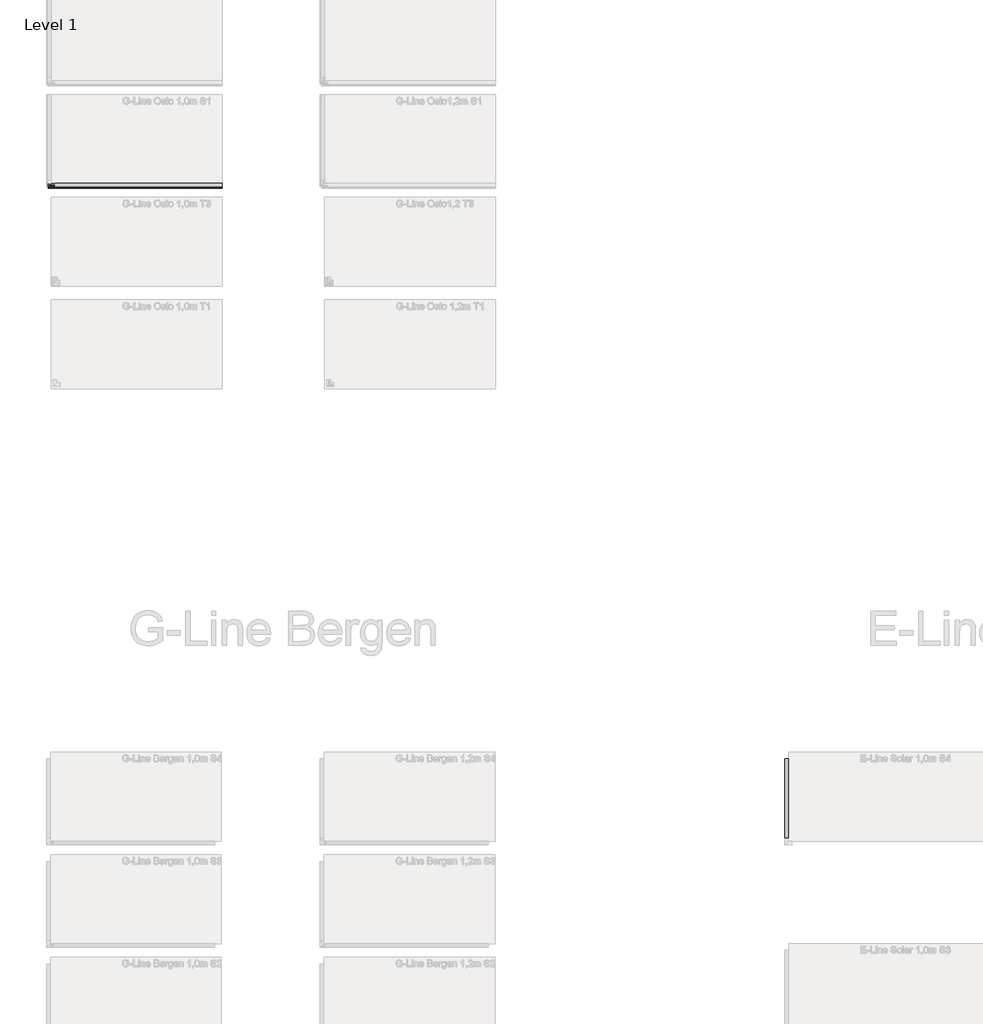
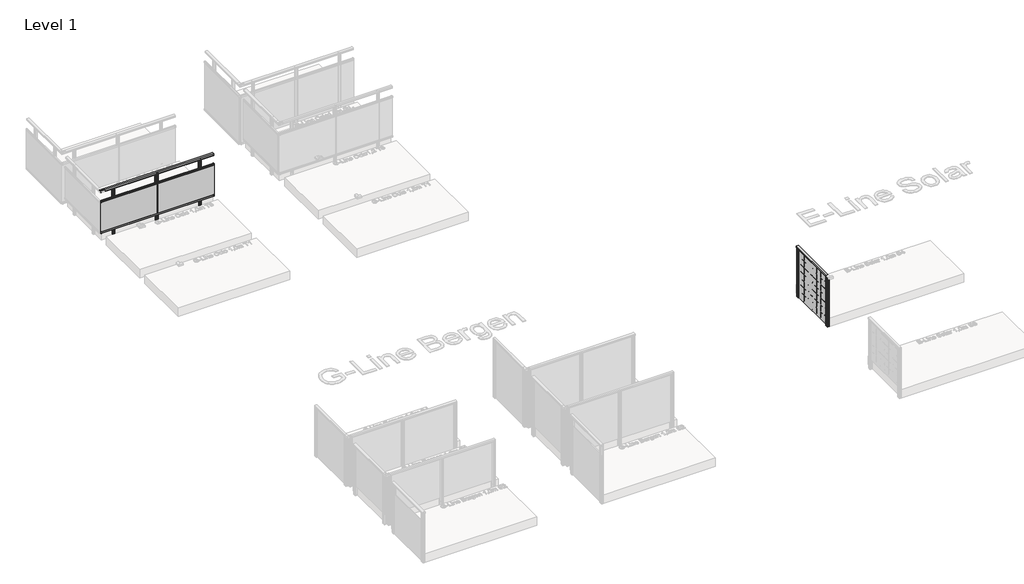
# One storey, part 30 of 66: 2 railings.
"""IFC4 building model written with IfcOpenShell, lengths in millimetres."""

from ifc_helpers import new_model, si_unit, point, frame, frame_2d, origin, origin_with_axes, place, context, project, spatial, polyline, circle_curve, trimmed, segment, composite_curve, outline, extrude, element, save

model = new_model("IFC4")

# Units and contexts
model_context = context("Model", 3, world=origin())
ifc_project = project(units=[si_unit("LENGTHUNIT", "METRE", prefix="MILLI")], contexts=[model_context])

# Site, building, storey
site = spatial("IfcSite", under=ifc_project)
building = spatial("IfcBuilding", under=site)
storey = spatial("IfcBuildingStorey", under=building, Name="Level 1", Elevation=0.0)

# Railings
placement = place(None, origin())
element("IfcRailing", 1, ObjectType="G-Line Oslo 1,0m S1", at=placement, inside=storey, context=model_context, shape_type="SweptSolid", body=[
    extrude(outline(composite_curve([segment(trimmed(circle_curve(frame_2d((12609.563828, 942.6785502)), 57.3235687), [point((12584.3088677, 994.1390059))], [point((12634.828526, 994.1342258))], False, "CARTESIAN"), True, "CONTINUOUS"), segment(polyline([(12634.828526, 994.1342258), (12634.828526, 967.0235023), (12634.2465942, 966.4415706), (12634.8686753, 965.8194895), (12634.8686753, 957.2498847), (12633.0637224, 957.2498847), (12633.0637224, 980.4998829), (12586.0686763, 980.4998829), (12586.0686763, 957.2498847), (12584.3088677, 957.2498847), (12584.3088677, 965.9694895), (12584.9236507, 966.5842725), (12584.3088677, 967.1990555), (12584.3088677, 994.1390059)]), True, "CONTINUOUS")], self_intersect=False)), frame((4464.0547322, 0.0, 0.0), z_axis=(1.0, 0.0, 0.0), x_axis=(0.0, 1.0, 0.0)), (0.0, 0.0, 1.0), 2540.0),
    extrude(outline(composite_curve([segment(polyline([(12582.0487504, 733.0), (12572.5287505, 733.0), (12565.2886441, 733.0)]), True, "CONTINUOUS"), segment(trimmed(circle_curve(frame_2d((12565.2886441, 733.5)), 0.5), [point((12565.2886441, 733.0))], [point((12564.7886441, 733.5))], False, "CARTESIAN"), True, "CONTINUOUS"), segment(polyline([(12564.7886441, 733.5), (12564.7886441, 761.4642612), (12565.2520415, 762.5008136), (12564.8288365, 763.3802866), (12564.7886441, 768.5)]), True, "CONTINUOUS"), segment(trimmed(circle_curve(frame_2d((12566.2886441, 768.5)), 1.5), [point((12564.7886441, 768.5))], [point((12566.2886441, 770.0))], False, "CARTESIAN"), True, "CONTINUOUS"), segment(polyline([(12566.2886441, 770.0), (12588.2886441, 770.0)]), True, "CONTINUOUS"), segment(trimmed(circle_curve(frame_2d((12588.2886441, 768.5)), 1.5), [point((12588.2886441, 770.0))], [point((12589.7886441, 768.5))], False, "CARTESIAN"), True, "CONTINUOUS"), segment(polyline([(12589.7886441, 768.5), (12589.7886441, 763.5302866), (12589.3252466, 762.5701988), (12589.7484517, 761.6142612), (12589.7484517, 733.6964102)]), True, "CONTINUOUS"), segment(trimmed(circle_curve(frame_2d((12589.2886441, 733.5)), 0.5), [point((12589.7484517, 733.6964102))], [point((12589.2886441, 733.0))], False, "CARTESIAN"), True, "CONTINUOUS"), segment(polyline([(12589.2886441, 733.0), (12582.0487504, 733.0)]), True, "CONTINUOUS")], self_intersect=False)), frame((4464.0547322, 0.0, 0.0), z_axis=(1.0, 0.0, 0.0), x_axis=(0.0, 1.0, 0.0)), (0.0, 0.0, 1.0), 2540.0),
    extrude(outline(polyline([(7004.0547322, 12581.6686441), (7004.0547322, 12572.9086441), (4464.0547322, 12572.9086441), (4464.0547322, 12581.6686441), (7004.0547322, 12581.6686441)])), frame((0.0, 0.0, 28.0), z_axis=(0.0, 0.0, 1.0), x_axis=(1.0, 0.0, 0.0)), (0.0, 0.0, 1.0), 722.0),
    extrude(outline(composite_curve([segment(polyline([(12572.5285377, 37.0), (12582.0485377, 37.0), (12589.2886441, 37.0)]), True, "CONTINUOUS"), segment(trimmed(circle_curve(frame_2d((12589.2886441, 36.5)), 0.5), [point((12589.2886441, 37.0))], [point((12589.7886441, 36.5))], False, "CARTESIAN"), True, "CONTINUOUS"), segment(polyline([(12589.7886441, 36.5), (12589.7886441, 8.5357388), (12589.3252466, 7.4991864), (12589.7484517, 6.6197134), (12589.7886441, 1.5)]), True, "CONTINUOUS"), segment(trimmed(circle_curve(frame_2d((12588.2886441, 1.5)), 1.5), [point((12589.7886441, 1.5))], [point((12588.2886441, 0.0))], False, "CARTESIAN"), True, "CONTINUOUS"), segment(polyline([(12588.2886441, 0.0), (12566.2886441, 0.0)]), True, "CONTINUOUS"), segment(trimmed(circle_curve(frame_2d((12566.2886441, 1.5)), 1.5), [point((12566.2886441, 0.0))], [point((12564.7886441, 1.5))], False, "CARTESIAN"), True, "CONTINUOUS"), segment(polyline([(12564.7886441, 1.5), (12564.7886441, 6.4697134), (12565.2520415, 7.4298012), (12564.8288365, 8.3857388), (12564.8288365, 36.3035898)]), True, "CONTINUOUS"), segment(trimmed(circle_curve(frame_2d((12565.2886441, 36.5)), 0.5), [point((12564.8288365, 36.3035898))], [point((12565.2886441, 37.0))], False, "CARTESIAN"), True, "CONTINUOUS"), segment(polyline([(12565.2886441, 37.0), (12572.5285377, 37.0)]), True, "CONTINUOUS")], self_intersect=False)), frame((4464.0547322, 0.0, 0.0), z_axis=(1.0, 0.0, 0.0), x_axis=(0.0, 1.0, 0.0)), (0.0, 0.0, 1.0), 2540.0),
    extrude(outline(polyline([(5738.0547322, 12570.2118492), (5730.0547322, 12570.2118492), (5730.0547322, 12578.2118492), (5738.0547322, 12578.2118492), (5738.0547322, 12570.2118492)])), origin_with_axes(), (0.0, 0.0, 1.0), 751.0),
    extrude(outline(composite_curve([segment(trimmed(circle_curve(frame_2d((0.0, -12.0)), 12.0), [point((0.0, -23.9999999))], [point((0.0, 0.0))], False, "CARTESIAN"), True, "CONTINUOUS"), segment(trimmed(circle_curve(frame_2d((0.0, -12.0)), 12.0), [point((0.0, 0.0))], [point((0.0, -23.9999999))], False, "CARTESIAN"), True, "CONTINUOUS")], self_intersect=False)), frame((5746.0650091, 12584.7534315, -175.0), z_axis=(-0.0004029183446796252, 0.9999999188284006, 0.0), x_axis=(0.0, 0.0, 1.0)), (0.0, 0.0, 1.0), 3.0757477),
    extrude(outline(composite_curve([segment(trimmed(circle_curve(frame_2d((0.0, -12.0)), 12.0), [point((0.0, -23.9999999))], [point((0.0, 0.0))], False, "CARTESIAN"), True, "CONTINUOUS"), segment(trimmed(circle_curve(frame_2d((0.0, -12.0)), 12.0), [point((0.0, 0.0))], [point((0.0, -23.9999999))], False, "CARTESIAN"), True, "CONTINUOUS")], self_intersect=False)), frame((5746.0650091, 12584.7534315, -50.0), z_axis=(-0.0004029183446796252, 0.9999999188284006, 0.0), x_axis=(0.0, 0.0, 1.0)), (0.0, 0.0, 1.0), 3.0757477),
    extrude(outline(composite_curve([segment(trimmed(circle_curve(frame_2d((5713.5547322, 12589.7886441)), 2.5), [point((5713.5547322, 12587.2886441))], [point((5711.0547322, 12589.7886441))], False, "CARTESIAN"), True, "CONTINUOUS"), segment(polyline([(5711.0547322, 12589.7886441), (5711.0547322, 12630.7886441)]), True, "CONTINUOUS"), segment(trimmed(circle_curve(frame_2d((5713.5547322, 12630.7886441)), 2.5), [point((5711.0547322, 12630.7886441))], [point((5713.5547322, 12633.2886441))], False, "CARTESIAN"), True, "CONTINUOUS"), segment(polyline([(5713.5547322, 12633.2886441), (5733.1315272, 12633.2886441), (5734.0547322, 12632.365439), (5734.9377449, 12633.2484517), (5754.5547322, 12633.2886441)]), True, "CONTINUOUS"), segment(trimmed(circle_curve(frame_2d((5754.5547322, 12630.7886441)), 2.5), [point((5754.5547322, 12633.2886441))], [point((5757.0547322, 12630.7886441))], False, "CARTESIAN"), True, "CONTINUOUS"), segment(polyline([(5757.0547322, 12630.7886441), (5757.0547322, 12589.7886441)]), True, "CONTINUOUS"), segment(trimmed(circle_curve(frame_2d((5754.5547322, 12589.7886441)), 2.5), [point((5757.0547322, 12589.7886441))], [point((5754.5547322, 12587.2886441))], False, "CARTESIAN"), True, "CONTINUOUS"), segment(polyline([(5754.5547322, 12587.2886441), (5734.9377449, 12587.3288365), (5734.0547322, 12588.2118492), (5733.1717195, 12587.3288365), (5713.5547322, 12587.2886441)]), True, "CONTINUOUS")], self_intersect=False), holes=[composite_curve([segment(trimmed(circle_curve(frame_2d((5752.0547322, 12628.2886441)), 1.0), [point((5753.0547322, 12628.2886441))], [point((5752.0547322, 12629.2886441))], True, "CARTESIAN"), True, "CONTINUOUS"), segment(polyline([(5752.0547322, 12629.2886441), (5716.0547322, 12629.2886441)]), True, "CONTINUOUS"), segment(trimmed(circle_curve(frame_2d((5716.0547322, 12628.2886441)), 1.0), [point((5716.0547322, 12629.2886441))], [point((5715.0547322, 12628.2886441))], True, "CARTESIAN"), True, "CONTINUOUS"), segment(polyline([(5715.0547322, 12628.2886441), (5715.0547322, 12592.2886441)]), True, "CONTINUOUS"), segment(trimmed(circle_curve(frame_2d((5716.0547322, 12592.2886441)), 1.0), [point((5715.0547322, 12592.2886441))], [point((5716.0547322, 12591.2886441))], True, "CARTESIAN"), True, "CONTINUOUS"), segment(polyline([(5716.0547322, 12591.2886441), (5752.0547322, 12591.2886441)]), True, "CONTINUOUS"), segment(trimmed(circle_curve(frame_2d((5752.0547322, 12592.2886441)), 1.0), [point((5752.0547322, 12591.2886441))], [point((5753.0547322, 12592.2886441))], True, "CARTESIAN"), True, "CONTINUOUS"), segment(polyline([(5753.0547322, 12592.2886441), (5753.0547322, 12628.2886441)]), True, "CONTINUOUS")], self_intersect=False)]), frame((0.0, 0.0, -200.0), z_axis=(0.0, 0.0, 1.0), x_axis=(1.0, 0.0, 0.0)), (0.0, 0.0, 1.0), 1181.0),
    extrude(outline(composite_curve([segment(polyline([(4763.2519452, 12630.2886441), (4764.0547322, 12629.4858571), (4764.8225694, 12630.2536942), (4781.8808193, 12630.2886441)]), True, "CONTINUOUS"), segment(trimmed(circle_curve(frame_2d((4781.8808192, 12628.114731)), 2.173913), [point((4781.8808193, 12630.2886441))], [point((4784.0547322, 12628.114731))], False, "CARTESIAN"), True, "CONTINUOUS"), segment(polyline([(4784.0547322, 12628.114731), (4784.0547322, 12592.4625571)]), True, "CONTINUOUS"), segment(trimmed(circle_curve(frame_2d((4781.8808192, 12592.4625571)), 2.173913), [point((4784.0547322, 12592.4625571))], [point((4781.8808192, 12590.2886441))], False, "CARTESIAN"), True, "CONTINUOUS"), segment(polyline([(4781.8808192, 12590.2886441), (4764.8225694, 12590.323594), (4764.0547322, 12591.0914311), (4763.2868951, 12590.323594), (4746.2286453, 12590.2886441)]), True, "CONTINUOUS"), segment(trimmed(circle_curve(frame_2d((4746.2286453, 12592.4625571)), 2.173913), [point((4746.2286453, 12590.2886441))], [point((4744.0547322, 12592.4625571))], False, "CARTESIAN"), True, "CONTINUOUS"), segment(polyline([(4744.0547322, 12592.4625571), (4744.0547322, 12628.114731)]), True, "CONTINUOUS"), segment(trimmed(circle_curve(frame_2d((4746.2286453, 12628.114731)), 2.173913), [point((4744.0547322, 12628.114731))], [point((4746.2286453, 12630.2886441))], False, "CARTESIAN"), True, "CONTINUOUS"), segment(polyline([(4746.2286453, 12630.2886441), (4763.2519452, 12630.2886441)]), True, "CONTINUOUS")], self_intersect=False)), frame((0.0, 0.0, -200.0), z_axis=(0.0, 0.0, 1.0), x_axis=(1.0, 0.0, 0.0)), (0.0, 0.0, 1.0), 10.0),
    extrude(outline(composite_curve([segment(polyline([(4784.0547322, 12628.114731), (4784.0547322, 12592.4625571)]), True, "CONTINUOUS"), segment(trimmed(circle_curve(frame_2d((4781.8808192, 12592.4625571)), 2.173913), [point((4784.0547322, 12592.4625571))], [point((4781.8808192, 12590.2886441))], False, "CARTESIAN"), True, "CONTINUOUS"), segment(polyline([(4781.8808192, 12590.2886441), (4764.8225694, 12590.323594), (4764.0547322, 12591.0914311), (4763.2868951, 12590.323594), (4746.2286453, 12590.2886441)]), True, "CONTINUOUS"), segment(trimmed(circle_curve(frame_2d((4746.2286453, 12592.4625571)), 2.173913), [point((4746.2286453, 12590.2886441))], [point((4744.0547322, 12592.4625571))], False, "CARTESIAN"), True, "CONTINUOUS"), segment(polyline([(4744.0547322, 12592.4625571), (4744.0547322, 12628.114731)]), True, "CONTINUOUS"), segment(trimmed(circle_curve(frame_2d((4746.2286453, 12628.114731)), 2.173913), [point((4744.0547322, 12628.114731))], [point((4746.2286453, 12630.2886441))], False, "CARTESIAN"), True, "CONTINUOUS"), segment(polyline([(4746.2286453, 12630.2886441), (4763.1564603, 12630.2886441), (4763.9242975, 12629.8856898), (4764.8225694, 12630.2536942), (4781.8808192, 12630.2886441)]), True, "CONTINUOUS"), segment(trimmed(circle_curve(frame_2d((4781.8808192, 12628.114731)), 2.173913), [point((4781.8808192, 12630.2886441))], [point((4784.0547322, 12628.114731))], False, "CARTESIAN"), True, "CONTINUOUS")], self_intersect=False), holes=[composite_curve([segment(trimmed(circle_curve(frame_2d((4779.7069062, 12625.940818)), 0.8695652), [point((4780.5764714, 12625.940818))], [point((4779.7069062, 12626.8103832))], True, "CARTESIAN"), True, "CONTINUOUS"), segment(polyline([(4779.7069062, 12626.8103832), (4748.4025583, 12626.8103832)]), True, "CONTINUOUS"), segment(trimmed(circle_curve(frame_2d((4748.4025583, 12625.940818)), 0.8695652), [point((4748.4025583, 12626.8103832))], [point((4747.5329931, 12625.940818))], True, "CARTESIAN"), True, "CONTINUOUS"), segment(polyline([(4747.5329931, 12625.940818), (4747.5329931, 12594.6364702)]), True, "CONTINUOUS"), segment(trimmed(circle_curve(frame_2d((4748.4025583, 12594.6364702)), 0.8695652), [point((4747.5329931, 12594.6364702))], [point((4748.4025583, 12593.766905))], True, "CARTESIAN"), True, "CONTINUOUS"), segment(polyline([(4748.4025583, 12593.766905), (4779.7069062, 12593.766905)]), True, "CONTINUOUS"), segment(trimmed(circle_curve(frame_2d((4779.7069062, 12594.6364702)), 0.8695652), [point((4779.7069062, 12593.766905))], [point((4780.5764714, 12594.6364702))], True, "CARTESIAN"), True, "CONTINUOUS"), segment(polyline([(4780.5764714, 12594.6364702), (4780.5764714, 12625.940818)]), True, "CONTINUOUS")], self_intersect=False)]), frame((0.0, 0.0, -190.0), z_axis=(0.0, 0.0, 1.0), x_axis=(1.0, 0.0, 0.0)), (0.0, 0.0, 1.0), 1178.0),
    extrude(outline(composite_curve([segment(trimmed(circle_curve(frame_2d((0.0, -12.0)), 12.0), [point((0.0, -23.9999999))], [point((0.0, 0.0))], False, "CARTESIAN"), True, "CONTINUOUS"), segment(trimmed(circle_curve(frame_2d((0.0, -12.0)), 12.0), [point((0.0, 0.0))], [point((0.0, -23.9999999))], False, "CARTESIAN"), True, "CONTINUOUS")], self_intersect=False)), frame((4776.0650091, 12587.2248149, -151.0), z_axis=(-0.0004029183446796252, 0.9999999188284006, 0.0), x_axis=(0.0, 0.0, 1.0)), (0.0, 0.0, 1.0), 3.0757477),
    extrude(outline(composite_curve([segment(trimmed(circle_curve(frame_2d((0.0, -12.0)), 12.0), [point((0.0, -23.9999999))], [point((0.0, 0.0))], False, "CARTESIAN"), True, "CONTINUOUS"), segment(trimmed(circle_curve(frame_2d((0.0, -12.0)), 12.0), [point((0.0, 0.0))], [point((0.0, -23.9999999))], False, "CARTESIAN"), True, "CONTINUOUS")], self_intersect=False)), frame((4776.0650091, 12587.2248149, -50.0), z_axis=(-0.0004029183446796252, 0.9999999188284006, 0.0), x_axis=(0.0, 0.0, 1.0)), (0.0, 0.0, 1.0), 3.0757477),
    extrude(outline(composite_curve([segment(polyline([(6703.2519452, 12630.2886441), (6704.0547322, 12629.4858571), (6704.8225694, 12630.2536942), (6721.8808193, 12630.2886441)]), True, "CONTINUOUS"), segment(trimmed(circle_curve(frame_2d((6721.8808192, 12628.114731)), 2.173913), [point((6721.8808193, 12630.2886441))], [point((6724.0547322, 12628.114731))], False, "CARTESIAN"), True, "CONTINUOUS"), segment(polyline([(6724.0547322, 12628.114731), (6724.0547322, 12592.4625571)]), True, "CONTINUOUS"), segment(trimmed(circle_curve(frame_2d((6721.8808192, 12592.4625571)), 2.173913), [point((6724.0547322, 12592.4625571))], [point((6721.8808192, 12590.2886441))], False, "CARTESIAN"), True, "CONTINUOUS"), segment(polyline([(6721.8808192, 12590.2886441), (6704.8225694, 12590.323594), (6704.0547322, 12591.0914311), (6703.2868951, 12590.323594), (6686.2286453, 12590.2886441)]), True, "CONTINUOUS"), segment(trimmed(circle_curve(frame_2d((6686.2286453, 12592.4625571)), 2.173913), [point((6686.2286453, 12590.2886441))], [point((6684.0547322, 12592.4625571))], False, "CARTESIAN"), True, "CONTINUOUS"), segment(polyline([(6684.0547322, 12592.4625571), (6684.0547322, 12628.114731)]), True, "CONTINUOUS"), segment(trimmed(circle_curve(frame_2d((6686.2286453, 12628.114731)), 2.173913), [point((6684.0547322, 12628.114731))], [point((6686.2286453, 12630.2886441))], False, "CARTESIAN"), True, "CONTINUOUS"), segment(polyline([(6686.2286453, 12630.2886441), (6703.2519452, 12630.2886441)]), True, "CONTINUOUS")], self_intersect=False)), frame((0.0, 0.0, -200.0), z_axis=(0.0, 0.0, 1.0), x_axis=(1.0, 0.0, 0.0)), (0.0, 0.0, 1.0), 10.0),
    extrude(outline(composite_curve([segment(polyline([(6724.0547322, 12628.114731), (6724.0547322, 12592.4625571)]), True, "CONTINUOUS"), segment(trimmed(circle_curve(frame_2d((6721.8808192, 12592.4625571)), 2.173913), [point((6724.0547322, 12592.4625571))], [point((6721.8808192, 12590.2886441))], False, "CARTESIAN"), True, "CONTINUOUS"), segment(polyline([(6721.8808192, 12590.2886441), (6704.8225694, 12590.323594), (6704.0547322, 12591.0914311), (6703.2868951, 12590.323594), (6686.2286453, 12590.2886441)]), True, "CONTINUOUS"), segment(trimmed(circle_curve(frame_2d((6686.2286453, 12592.4625571)), 2.173913), [point((6686.2286453, 12590.2886441))], [point((6684.0547322, 12592.4625571))], False, "CARTESIAN"), True, "CONTINUOUS"), segment(polyline([(6684.0547322, 12592.4625571), (6684.0547322, 12628.114731)]), True, "CONTINUOUS"), segment(trimmed(circle_curve(frame_2d((6686.2286453, 12628.114731)), 2.173913), [point((6684.0547322, 12628.114731))], [point((6686.2286453, 12630.2886441))], False, "CARTESIAN"), True, "CONTINUOUS"), segment(polyline([(6686.2286453, 12630.2886441), (6703.1564603, 12630.2886441), (6703.9242975, 12629.8856898), (6704.8225694, 12630.2536942), (6721.8808192, 12630.2886441)]), True, "CONTINUOUS"), segment(trimmed(circle_curve(frame_2d((6721.8808192, 12628.114731)), 2.173913), [point((6721.8808192, 12630.2886441))], [point((6724.0547322, 12628.114731))], False, "CARTESIAN"), True, "CONTINUOUS")], self_intersect=False), holes=[composite_curve([segment(trimmed(circle_curve(frame_2d((6719.7069062, 12625.940818)), 0.8695652), [point((6720.5764714, 12625.940818))], [point((6719.7069062, 12626.8103832))], True, "CARTESIAN"), True, "CONTINUOUS"), segment(polyline([(6719.7069062, 12626.8103832), (6688.4025583, 12626.8103832)]), True, "CONTINUOUS"), segment(trimmed(circle_curve(frame_2d((6688.4025583, 12625.940818)), 0.8695652), [point((6688.4025583, 12626.8103832))], [point((6687.5329931, 12625.940818))], True, "CARTESIAN"), True, "CONTINUOUS"), segment(polyline([(6687.5329931, 12625.940818), (6687.5329931, 12594.6364702)]), True, "CONTINUOUS"), segment(trimmed(circle_curve(frame_2d((6688.4025583, 12594.6364702)), 0.8695652), [point((6687.5329931, 12594.6364702))], [point((6688.4025583, 12593.766905))], True, "CARTESIAN"), True, "CONTINUOUS"), segment(polyline([(6688.4025583, 12593.766905), (6719.7069062, 12593.766905)]), True, "CONTINUOUS"), segment(trimmed(circle_curve(frame_2d((6719.7069062, 12594.6364702)), 0.8695652), [point((6719.7069062, 12593.766905))], [point((6720.5764714, 12594.6364702))], True, "CARTESIAN"), True, "CONTINUOUS"), segment(polyline([(6720.5764714, 12594.6364702), (6720.5764714, 12625.940818)]), True, "CONTINUOUS")], self_intersect=False)]), frame((0.0, 0.0, -190.0), z_axis=(0.0, 0.0, 1.0), x_axis=(1.0, 0.0, 0.0)), (0.0, 0.0, 1.0), 1178.0),
    extrude(outline(composite_curve([segment(trimmed(circle_curve(frame_2d((0.0, -12.0)), 12.0), [point((0.0, -23.9999999))], [point((0.0, 0.0))], False, "CARTESIAN"), True, "CONTINUOUS"), segment(trimmed(circle_curve(frame_2d((0.0, -12.0)), 12.0), [point((0.0, 0.0))], [point((0.0, -23.9999999))], False, "CARTESIAN"), True, "CONTINUOUS")], self_intersect=False)), frame((6716.0650091, 12587.2248149, -151.0), z_axis=(-0.0004029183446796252, 0.9999999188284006, 0.0), x_axis=(0.0, 0.0, 1.0)), (0.0, 0.0, 1.0), 3.0757477),
    extrude(outline(composite_curve([segment(trimmed(circle_curve(frame_2d((0.0, -12.0)), 12.0), [point((0.0, -23.9999999))], [point((0.0, 0.0))], False, "CARTESIAN"), True, "CONTINUOUS"), segment(trimmed(circle_curve(frame_2d((0.0, -12.0)), 12.0), [point((0.0, 0.0))], [point((0.0, -23.9999999))], False, "CARTESIAN"), True, "CONTINUOUS")], self_intersect=False)), frame((6716.0650091, 12587.2248149, -50.0), z_axis=(-0.0004029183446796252, 0.9999999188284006, 0.0), x_axis=(0.0, 0.0, 1.0)), (0.0, 0.0, 1.0), 3.0757477),
])
element("IfcRailing", 2, ObjectType="E-Line Solar 1,0m S4 6 columns of solar elements", at=placement, inside=storey, context=model_context, shape_type="SweptSolid", body=[
    extrude(outline(composite_curve([segment(trimmed(circle_curve(frame_2d((942.6785502, 15265.8109342)), 57.3235687), [point((994.1390059, 15291.0658945))], [point((994.1342258, 15240.5462362))], False, "CARTESIAN"), True, "CONTINUOUS"), segment(polyline([(994.1342258, 15240.5462362), (967.0235023, 15240.5462362), (966.4415706, 15241.128168), (965.8194895, 15240.5060869), (957.2498847, 15240.5060869), (957.2498847, 15242.3110398), (980.4998829, 15242.3110398), (980.4998829, 15289.306086), (957.2498847, 15289.306086), (957.2498847, 15291.0658945), (965.9694895, 15291.0658945), (966.5842725, 15290.4511115), (967.1990555, 15291.0658945), (994.1390059, 15291.0658945)]), True, "CONTINUOUS")], self_intersect=False)), frame((0.0, 3023.8815979, 0.0), z_axis=(0.0, 1.0, 0.0), x_axis=(0.0, 0.0, 1.0)), (0.0, 0.0, 1.0), 1195.0),
    extrude(outline(polyline([(15265.6306934, 4218.8815979), (15267.4943763, 4218.8815979), (15267.4943763, 3023.8815979), (15265.6306934, 3023.8815979), (15265.6306934, 4218.8815979)])), frame((0.0, 0.0, -200.0), z_axis=(0.0, 0.0, 1.0), x_axis=(1.0, 0.0, 0.0)), (0.0, 0.0, 1.0), 1.1703418),
    extrude(outline(polyline([(15262.1463105, 4218.8815979), (15270.9063105, 4218.8815979), (15270.9063105, 3023.8815979), (15262.1463105, 3023.8815979), (15262.1463105, 4218.8815979)])), frame((0.0, 0.0, -200.0), z_axis=(0.0, 0.0, 1.0), x_axis=(1.0, 0.0, 0.0)), (0.0, 0.0, 1.0), 1180.0),
    extrude(outline(polyline([(0.0, 0.0), (-16.036927, 16.036927), (-16.036927, 139.963073), (0.0, 156.0), (123.9261459, 156.0), (139.963073, 139.963073), (139.963073, 16.036927), (123.9261459, 0.0), (0.0, 0.0)])), frame((15262.0263105, 3945.8815979, 935.4156895), z_axis=(1.0, -5.811291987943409e-12, 0.0), x_axis=(0.0, 0.0, -1.0)), (0.0, 0.0, 1.0), 1.0),
    extrude(outline(polyline([(0.0, 0.0), (-16.036927, 16.036927), (-16.036927, 139.963073), (0.0, 156.0), (123.9261459, 156.0), (139.963073, 139.963073), (139.963073, 16.036927), (123.9261459, 0.0), (0.0, 0.0)])), frame((15262.0263105, 3784.8815979, 935.4156895), z_axis=(1.0, -5.811291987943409e-12, 0.0), x_axis=(0.0, 0.0, -1.0)), (0.0, 0.0, 1.0), 1.0),
    extrude(outline(polyline([(0.0, 0.0), (-16.036927, 16.036927), (-16.036927, 139.963073), (0.0, 156.0), (123.9261459, 156.0), (139.963073, 139.963073), (139.963073, 16.036927), (123.9261459, 0.0), (0.0, 0.0)])), frame((15262.0263105, 3623.8815979, 935.4156895), z_axis=(1.0, -5.811291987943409e-12, 0.0), x_axis=(0.0, 0.0, -1.0)), (0.0, 0.0, 1.0), 1.0),
    extrude(outline(polyline([(0.0, 0.0), (-16.036927, 16.036927), (-16.036927, 139.963073), (0.0, 156.0), (123.9261459, 156.0), (139.963073, 139.963073), (139.963073, 16.036927), (123.9261459, 0.0), (0.0, 0.0)])), frame((15262.0263105, 3140.8815979, 935.4156895), z_axis=(1.0, -5.811291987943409e-12, 0.0), x_axis=(0.0, 0.0, -1.0)), (0.0, 0.0, 1.0), 1.0),
    extrude(outline(polyline([(0.0, 0.0), (-16.036927, 16.036927), (-16.036927, 139.963073), (0.0, 156.0), (123.9261459, 156.0), (139.963073, 139.963073), (139.963073, 16.036927), (123.9261459, 0.0), (0.0, 0.0)])), frame((15262.0263105, 3301.8815979, 935.4156895), z_axis=(1.0, -5.811291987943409e-12, 0.0), x_axis=(0.0, 0.0, -1.0)), (0.0, 0.0, 1.0), 1.0),
    extrude(outline(polyline([(0.0, 0.0), (-16.036927, 16.036927), (-16.036927, 139.963073), (0.0, 156.0), (123.9261459, 156.0), (139.963073, 139.963073), (139.963073, 16.036927), (123.9261459, 0.0), (0.0, 0.0)])), frame((15262.0263105, 3462.8815979, 935.4156895), z_axis=(1.0, -5.811291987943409e-12, 0.0), x_axis=(0.0, 0.0, -1.0)), (0.0, 0.0, 1.0), 1.0),
    extrude(outline(polyline([(0.0, 0.0), (-16.036927, 16.036927), (-16.036927, 139.963073), (0.0, 156.0), (123.9261459, 156.0), (139.963073, 139.963073), (139.963073, 16.036927), (123.9261459, 0.0), (0.0, 0.0)])), frame((15262.0263105, 3945.8815979, 774.4156895), z_axis=(1.0, -5.811291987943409e-12, 0.0), x_axis=(0.0, 0.0, -1.0)), (0.0, 0.0, 1.0), 1.0),
    extrude(outline(polyline([(0.0, 0.0), (-16.036927, 16.036927), (-16.036927, 139.963073), (0.0, 156.0), (123.9261459, 156.0), (139.963073, 139.963073), (139.963073, 16.036927), (123.9261459, 0.0), (0.0, 0.0)])), frame((15262.0263105, 3784.8815979, 774.4156895), z_axis=(1.0, -5.811291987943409e-12, 0.0), x_axis=(0.0, 0.0, -1.0)), (0.0, 0.0, 1.0), 1.0),
    extrude(outline(polyline([(0.0, 0.0), (-16.036927, 16.036927), (-16.036927, 139.963073), (0.0, 156.0), (123.9261459, 156.0), (139.963073, 139.963073), (139.963073, 16.036927), (123.9261459, 0.0), (0.0, 0.0)])), frame((15262.0263105, 3623.8815979, 774.4156895), z_axis=(1.0, -5.811291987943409e-12, 0.0), x_axis=(0.0, 0.0, -1.0)), (0.0, 0.0, 1.0), 1.0),
    extrude(outline(polyline([(0.0, 0.0), (-16.036927, 16.036927), (-16.036927, 139.963073), (0.0, 156.0), (123.9261459, 156.0), (139.963073, 139.963073), (139.963073, 16.036927), (123.9261459, 0.0), (0.0, 0.0)])), frame((15262.0263105, 3140.8815979, 774.4156895), z_axis=(1.0, -5.811291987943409e-12, 0.0), x_axis=(0.0, 0.0, -1.0)), (0.0, 0.0, 1.0), 1.0),
    extrude(outline(polyline([(0.0, 0.0), (-16.036927, 16.036927), (-16.036927, 139.963073), (0.0, 156.0), (123.9261459, 156.0), (139.963073, 139.963073), (139.963073, 16.036927), (123.9261459, 0.0), (0.0, 0.0)])), frame((15262.0263105, 3301.8815979, 774.4156895), z_axis=(1.0, -5.811291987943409e-12, 0.0), x_axis=(0.0, 0.0, -1.0)), (0.0, 0.0, 1.0), 1.0),
    extrude(outline(polyline([(0.0, 0.0), (-16.036927, 16.036927), (-16.036927, 139.963073), (0.0, 156.0), (123.9261459, 156.0), (139.963073, 139.963073), (139.963073, 16.036927), (123.9261459, 0.0), (0.0, 0.0)])), frame((15262.0263105, 3462.8815979, 774.4156895), z_axis=(1.0, -5.811291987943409e-12, 0.0), x_axis=(0.0, 0.0, -1.0)), (0.0, 0.0, 1.0), 1.0),
    extrude(outline(polyline([(0.0, 0.0), (-16.036927, 16.036927), (-16.036927, 139.963073), (0.0, 156.0), (123.9261459, 156.0), (139.963073, 139.963073), (139.963073, 16.036927), (123.9261459, 0.0), (0.0, 0.0)])), frame((15262.0263105, 3945.8815979, 613.4156895), z_axis=(1.0, -5.811291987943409e-12, 0.0), x_axis=(0.0, 0.0, -1.0)), (0.0, 0.0, 1.0), 1.0),
    extrude(outline(polyline([(0.0, 0.0), (-16.036927, 16.036927), (-16.036927, 139.963073), (0.0, 156.0), (123.9261459, 156.0), (139.963073, 139.963073), (139.963073, 16.036927), (123.9261459, 0.0), (0.0, 0.0)])), frame((15262.0263105, 3945.8815979, 452.4156895), z_axis=(1.0, -5.811291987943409e-12, 0.0), x_axis=(0.0, 0.0, -1.0)), (0.0, 0.0, 1.0), 1.0),
    extrude(outline(polyline([(0.0, 0.0), (-16.036927, 16.036927), (-16.036927, 139.963073), (0.0, 156.0), (123.9261459, 156.0), (139.963073, 139.963073), (139.963073, 16.036927), (123.9261459, 0.0), (0.0, 0.0)])), frame((15262.0263105, 3945.8815979, 291.4156895), z_axis=(1.0, -5.811291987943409e-12, 0.0), x_axis=(0.0, 0.0, -1.0)), (0.0, 0.0, 1.0), 1.0),
    extrude(outline(polyline([(0.0, 0.0), (-16.036927, 16.036927), (-16.036927, 139.963073), (0.0, 156.0), (123.9261459, 156.0), (139.963073, 139.963073), (139.963073, 16.036927), (123.9261459, 0.0), (0.0, 0.0)])), frame((15262.0263105, 3945.8815979, 130.4156895), z_axis=(1.0, -5.811291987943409e-12, 0.0), x_axis=(0.0, 0.0, -1.0)), (0.0, 0.0, 1.0), 1.0),
    extrude(outline(polyline([(0.0, 0.0), (-16.036927, 16.036927), (-16.036927, 139.963073), (0.0, 156.0), (123.9261459, 156.0), (139.963073, 139.963073), (139.963073, 16.036927), (123.9261459, 0.0), (0.0, 0.0)])), frame((15262.0263105, 3945.8815979, -30.5843105), z_axis=(1.0, -5.811291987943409e-12, 0.0), x_axis=(0.0, 0.0, -1.0)), (0.0, 0.0, 1.0), 1.0),
    extrude(outline(polyline([(0.0, 0.0), (-16.036927, 16.036927), (-16.036927, 139.963073), (0.0, 156.0), (123.9261459, 156.0), (139.963073, 139.963073), (139.963073, 16.036927), (123.9261459, 0.0), (0.0, 0.0)])), frame((15262.0263105, 3784.8815979, 613.4156895), z_axis=(1.0, -5.811291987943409e-12, 0.0), x_axis=(0.0, 0.0, -1.0)), (0.0, 0.0, 1.0), 1.0),
    extrude(outline(polyline([(0.0, 0.0), (-16.036927, 16.036927), (-16.036927, 139.963073), (0.0, 156.0), (123.9261459, 156.0), (139.963073, 139.963073), (139.963073, 16.036927), (123.9261459, 0.0), (0.0, 0.0)])), frame((15262.0263105, 3784.8815979, 452.4156895), z_axis=(1.0, -5.811291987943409e-12, 0.0), x_axis=(0.0, 0.0, -1.0)), (0.0, 0.0, 1.0), 1.0),
    extrude(outline(polyline([(0.0, 0.0), (-16.036927, 16.036927), (-16.036927, 139.963073), (0.0, 156.0), (123.9261459, 156.0), (139.963073, 139.963073), (139.963073, 16.036927), (123.9261459, 0.0), (0.0, 0.0)])), frame((15262.0263105, 3784.8815979, 291.4156895), z_axis=(1.0, -5.811291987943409e-12, 0.0), x_axis=(0.0, 0.0, -1.0)), (0.0, 0.0, 1.0), 1.0),
    extrude(outline(polyline([(0.0, 0.0), (-16.036927, 16.036927), (-16.036927, 139.963073), (0.0, 156.0), (123.9261459, 156.0), (139.963073, 139.963073), (139.963073, 16.036927), (123.9261459, 0.0), (0.0, 0.0)])), frame((15262.0263105, 3784.8815979, 130.4156895), z_axis=(1.0, -5.811291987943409e-12, 0.0), x_axis=(0.0, 0.0, -1.0)), (0.0, 0.0, 1.0), 1.0),
    extrude(outline(polyline([(0.0, 0.0), (-16.036927, 16.036927), (-16.036927, 139.963073), (0.0, 156.0), (123.9261459, 156.0), (139.963073, 139.963073), (139.963073, 16.036927), (123.9261459, 0.0), (0.0, 0.0)])), frame((15262.0263105, 3784.8815979, -30.5843105), z_axis=(1.0, -5.811291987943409e-12, 0.0), x_axis=(0.0, 0.0, -1.0)), (0.0, 0.0, 1.0), 1.0),
    extrude(outline(polyline([(0.0, 0.0), (-16.036927, 16.036927), (-16.036927, 139.963073), (0.0, 156.0), (123.9261459, 156.0), (139.963073, 139.963073), (139.963073, 16.036927), (123.9261459, 0.0), (0.0, 0.0)])), frame((15262.0263105, 3623.8815979, 613.4156895), z_axis=(1.0, -5.811291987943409e-12, 0.0), x_axis=(0.0, 0.0, -1.0)), (0.0, 0.0, 1.0), 1.0),
    extrude(outline(polyline([(0.0, 0.0), (-16.036927, 16.036927), (-16.036927, 139.963073), (0.0, 156.0), (123.9261459, 156.0), (139.963073, 139.963073), (139.963073, 16.036927), (123.9261459, 0.0), (0.0, 0.0)])), frame((15262.0263105, 3623.8815979, 452.4156895), z_axis=(1.0, -5.811291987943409e-12, 0.0), x_axis=(0.0, 0.0, -1.0)), (0.0, 0.0, 1.0), 1.0),
    extrude(outline(polyline([(0.0, 0.0), (-16.036927, 16.036927), (-16.036927, 139.963073), (0.0, 156.0), (123.9261459, 156.0), (139.963073, 139.963073), (139.963073, 16.036927), (123.9261459, 0.0), (0.0, 0.0)])), frame((15262.0263105, 3623.8815979, 291.4156895), z_axis=(1.0, -5.811291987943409e-12, 0.0), x_axis=(0.0, 0.0, -1.0)), (0.0, 0.0, 1.0), 1.0),
    extrude(outline(polyline([(0.0, 0.0), (-16.036927, 16.036927), (-16.036927, 139.963073), (0.0, 156.0), (123.9261459, 156.0), (139.963073, 139.963073), (139.963073, 16.036927), (123.9261459, 0.0), (0.0, 0.0)])), frame((15262.0263105, 3623.8815979, 130.4156895), z_axis=(1.0, -5.811291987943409e-12, 0.0), x_axis=(0.0, 0.0, -1.0)), (0.0, 0.0, 1.0), 1.0),
    extrude(outline(polyline([(0.0, 0.0), (-16.036927, 16.036927), (-16.036927, 139.963073), (0.0, 156.0), (123.9261459, 156.0), (139.963073, 139.963073), (139.963073, 16.036927), (123.9261459, 0.0), (0.0, 0.0)])), frame((15262.0263105, 3623.8815979, -30.5843105), z_axis=(1.0, -5.811291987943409e-12, 0.0), x_axis=(0.0, 0.0, -1.0)), (0.0, 0.0, 1.0), 1.0),
    extrude(outline(polyline([(0.0, 0.0), (-16.036927, 16.036927), (-16.036927, 139.963073), (0.0, 156.0), (123.9261459, 156.0), (139.963073, 139.963073), (139.963073, 16.036927), (123.9261459, 0.0), (0.0, 0.0)])), frame((15262.0263105, 3140.8815979, 613.4156895), z_axis=(1.0, -5.811291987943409e-12, 0.0), x_axis=(0.0, 0.0, -1.0)), (0.0, 0.0, 1.0), 1.0),
    extrude(outline(polyline([(0.0, 0.0), (-16.036927, 16.036927), (-16.036927, 139.963073), (0.0, 156.0), (123.9261459, 156.0), (139.963073, 139.963073), (139.963073, 16.036927), (123.9261459, 0.0), (0.0, 0.0)])), frame((15262.0263105, 3140.8815979, 452.4156895), z_axis=(1.0, -5.811291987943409e-12, 0.0), x_axis=(0.0, 0.0, -1.0)), (0.0, 0.0, 1.0), 1.0),
    extrude(outline(polyline([(0.0, 0.0), (-16.036927, 16.036927), (-16.036927, 139.963073), (0.0, 156.0), (123.9261459, 156.0), (139.963073, 139.963073), (139.963073, 16.036927), (123.9261459, 0.0), (0.0, 0.0)])), frame((15262.0263105, 3140.8815979, 291.4156895), z_axis=(1.0, -5.811291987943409e-12, 0.0), x_axis=(0.0, 0.0, -1.0)), (0.0, 0.0, 1.0), 1.0),
    extrude(outline(polyline([(0.0, 0.0), (-16.036927, 16.036927), (-16.036927, 139.963073), (0.0, 156.0), (123.9261459, 156.0), (139.963073, 139.963073), (139.963073, 16.036927), (123.9261459, 0.0), (0.0, 0.0)])), frame((15262.0263105, 3140.8815979, 130.4156895), z_axis=(1.0, -5.811291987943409e-12, 0.0), x_axis=(0.0, 0.0, -1.0)), (0.0, 0.0, 1.0), 1.0),
    extrude(outline(polyline([(0.0, 0.0), (-16.036927, 16.036927), (-16.036927, 139.963073), (0.0, 156.0), (123.9261459, 156.0), (139.963073, 139.963073), (139.963073, 16.036927), (123.9261459, 0.0), (0.0, 0.0)])), frame((15262.0263105, 3140.8815979, -30.5843105), z_axis=(1.0, -5.811291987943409e-12, 0.0), x_axis=(0.0, 0.0, -1.0)), (0.0, 0.0, 1.0), 1.0),
    extrude(outline(polyline([(0.0, 0.0), (-16.036927, 16.036927), (-16.036927, 139.963073), (0.0, 156.0), (123.9261459, 156.0), (139.963073, 139.963073), (139.963073, 16.036927), (123.9261459, 0.0), (0.0, 0.0)])), frame((15262.0263105, 3301.8815979, 613.4156895), z_axis=(1.0, -5.811291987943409e-12, 0.0), x_axis=(0.0, 0.0, -1.0)), (0.0, 0.0, 1.0), 1.0),
    extrude(outline(polyline([(0.0, 0.0), (-16.036927, 16.036927), (-16.036927, 139.963073), (0.0, 156.0), (123.9261459, 156.0), (139.963073, 139.963073), (139.963073, 16.036927), (123.9261459, 0.0), (0.0, 0.0)])), frame((15262.0263105, 3301.8815979, 452.4156895), z_axis=(1.0, -5.811291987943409e-12, 0.0), x_axis=(0.0, 0.0, -1.0)), (0.0, 0.0, 1.0), 1.0),
    extrude(outline(polyline([(0.0, 0.0), (-16.036927, 16.036927), (-16.036927, 139.963073), (0.0, 156.0), (123.9261459, 156.0), (139.963073, 139.963073), (139.963073, 16.036927), (123.9261459, 0.0), (0.0, 0.0)])), frame((15262.0263105, 3301.8815979, 291.4156895), z_axis=(1.0, -5.811291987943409e-12, 0.0), x_axis=(0.0, 0.0, -1.0)), (0.0, 0.0, 1.0), 1.0),
    extrude(outline(polyline([(0.0, 0.0), (-16.036927, 16.036927), (-16.036927, 139.963073), (0.0, 156.0), (123.9261459, 156.0), (139.963073, 139.963073), (139.963073, 16.036927), (123.9261459, 0.0), (0.0, 0.0)])), frame((15262.0263105, 3301.8815979, 130.4156895), z_axis=(1.0, -5.811291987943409e-12, 0.0), x_axis=(0.0, 0.0, -1.0)), (0.0, 0.0, 1.0), 1.0),
    extrude(outline(polyline([(0.0, 0.0), (-16.036927, 16.036927), (-16.036927, 139.963073), (0.0, 156.0), (123.9261459, 156.0), (139.963073, 139.963073), (139.963073, 16.036927), (123.9261459, 0.0), (0.0, 0.0)])), frame((15262.0263105, 3301.8815979, -30.5843105), z_axis=(1.0, -5.811291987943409e-12, 0.0), x_axis=(0.0, 0.0, -1.0)), (0.0, 0.0, 1.0), 1.0),
    extrude(outline(polyline([(0.0, 0.0), (-16.036927, 16.036927), (-16.036927, 139.963073), (0.0, 156.0), (123.9261459, 156.0), (139.963073, 139.963073), (139.963073, 16.036927), (123.9261459, 0.0), (0.0, 0.0)])), frame((15262.0263105, 3462.8815979, 613.4156895), z_axis=(1.0, -5.811291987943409e-12, 0.0), x_axis=(0.0, 0.0, -1.0)), (0.0, 0.0, 1.0), 1.0),
    extrude(outline(polyline([(0.0, 0.0), (-16.036927, 16.036927), (-16.036927, 139.963073), (0.0, 156.0), (123.9261459, 156.0), (139.963073, 139.963073), (139.963073, 16.036927), (123.9261459, 0.0), (0.0, 0.0)])), frame((15262.0263105, 3462.8815979, 452.4156895), z_axis=(1.0, -5.811291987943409e-12, 0.0), x_axis=(0.0, 0.0, -1.0)), (0.0, 0.0, 1.0), 1.0),
    extrude(outline(polyline([(0.0, 0.0), (-16.036927, 16.036927), (-16.036927, 139.963073), (0.0, 156.0), (123.9261459, 156.0), (139.963073, 139.963073), (139.963073, 16.036927), (123.9261459, 0.0), (0.0, 0.0)])), frame((15262.0263105, 3462.8815979, 291.4156895), z_axis=(1.0, -5.811291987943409e-12, 0.0), x_axis=(0.0, 0.0, -1.0)), (0.0, 0.0, 1.0), 1.0),
    extrude(outline(polyline([(0.0, 0.0), (-16.036927, 16.036927), (-16.036927, 139.963073), (0.0, 156.0), (123.9261459, 156.0), (139.963073, 139.963073), (139.963073, 16.036927), (123.9261459, 0.0), (0.0, 0.0)])), frame((15262.0263105, 3462.8815979, 130.4156895), z_axis=(1.0, -5.811291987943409e-12, 0.0), x_axis=(0.0, 0.0, -1.0)), (0.0, 0.0, 1.0), 1.0),
    extrude(outline(polyline([(0.0, 0.0), (-16.036927, 16.036927), (-16.036927, 139.963073), (0.0, 156.0), (123.9261459, 156.0), (139.963073, 139.963073), (139.963073, 16.036927), (123.9261459, 0.0), (0.0, 0.0)])), frame((15262.0263105, 3462.8815979, -30.5843105), z_axis=(1.0, -5.811291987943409e-12, 0.0), x_axis=(0.0, 0.0, -1.0)), (0.0, 0.0, 1.0), 1.0),
    extrude(outline(polyline([(15270.8721725, 3023.883191), (15270.8747497, 3041.3831908), (15262.1147498, 3041.3844809), (15262.1121726, 3023.8844811), (15244.0573652, 3023.88714), (15244.0616532, 3053.004127), (15244.9400753, 3053.8822904), (15244.021743, 3054.9201583), (15244.0260089, 3083.8871452), (15262.1210087, 3083.8844804), (15262.1184315, 3066.3844806), (15270.8784314, 3066.3831905), (15270.8810086, 3083.8831903), (15288.9859597, 3083.880524), (15288.9816865, 3054.8640485), (15287.9932969, 3053.87595), (15289.0214382, 3052.8475058), (15289.0171723, 3023.8805188), (15270.8721725, 3023.883191)])), frame((0.0, 0.0, -202.0233958), z_axis=(0.0, 0.0, 1.0), x_axis=(1.0, 0.0, 0.0)), (0.0, 0.0, 1.0), 2.0),
    extrude(outline(composite_curve([segment(trimmed(circle_curve(frame_2d((0.0, 12.0)), 12.0), [point((0.0, 23.9999999))], [point((0.0, 0.0))], False, "CARTESIAN"), True, "CONTINUOUS"), segment(trimmed(circle_curve(frame_2d((0.0, 12.0)), 12.0), [point((0.0, 0.0))], [point((0.0, 23.9999999))], False, "CARTESIAN"), True, "CONTINUOUS")], self_intersect=False)), frame((15244.0668454, 3065.8906355, -175.0), z_axis=(-0.9999999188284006, 0.0004029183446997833, 0.0), x_axis=(0.0, 0.0, -1.0)), (0.0, 0.0, 1.0), 3.0757477),
    extrude(outline(composite_curve([segment(trimmed(circle_curve(frame_2d((0.0, 12.0)), 12.0), [point((0.0, 23.9999999))], [point((0.0, 0.0))], False, "CARTESIAN"), True, "CONTINUOUS"), segment(trimmed(circle_curve(frame_2d((0.0, 12.0)), 12.0), [point((0.0, 0.0))], [point((0.0, 23.9999999))], False, "CARTESIAN"), True, "CONTINUOUS")], self_intersect=False)), frame((15244.0668454, 3065.8906355, -50.0), z_axis=(-0.9999999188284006, 0.0004029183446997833, 0.0), x_axis=(0.0, 0.0, -1.0)), (0.0, 0.0, 1.0), 3.0757477),
    extrude(outline(polyline([(15270.8721725, 3023.883191), (15270.8747497, 3041.3831908), (15262.1147498, 3041.3844809), (15262.1121726, 3023.8844811), (15244.0573652, 3023.88714), (15244.0616532, 3053.004127), (15244.9400753, 3053.8822904), (15244.021743, 3054.9201583), (15244.0260089, 3083.8871452), (15262.1210087, 3083.8844804), (15262.1184315, 3066.3844806), (15270.8784314, 3066.3831905), (15270.8810086, 3083.8831903), (15288.9859597, 3083.880524), (15288.9816865, 3054.8640485), (15287.9932969, 3053.87595), (15289.0214382, 3052.8475058), (15289.0171723, 3023.8805188), (15270.8721725, 3023.883191)]), holes=[polyline([(15246.0202949, 3062.6808129), (15246.0202949, 3045.0868512), (15287.0228863, 3045.0868512), (15287.0228863, 3062.6808129), (15246.0202949, 3062.6808129)]), polyline([(15272.878181, 3081.8808127), (15272.878181, 3064.682896), (15287.0257139, 3064.682896), (15287.0257139, 3081.8808127), (15272.878181, 3081.8808127)]), polyline([(15246.0202949, 3081.884775), (15246.0202949, 3064.6868513), (15260.1207142, 3064.6868513), (15260.1207142, 3081.884775), (15246.0202949, 3081.884775)]), polyline([(15272.872467, 3043.0808132), (15272.872467, 3025.8828965), (15287.0199999, 3025.8828965), (15287.0199999, 3043.0808132), (15272.872467, 3043.0808132)]), polyline([(15245.9674673, 3043.0847754), (15245.9674673, 3025.8868587), (15260.1150002, 3025.8868587), (15260.1150002, 3043.0847754), (15245.9674673, 3043.0847754)])]), frame((0.0, 0.0, -200.0), z_axis=(0.0, 0.0, 1.0), x_axis=(1.0, 0.0, 0.0)), (0.0, 0.0, 1.0), 1181.0),
    extrude(outline(polyline([(15270.8721725, 4158.883191), (15270.8747497, 4176.3831908), (15262.1147498, 4176.3844809), (15262.1121726, 4158.8844811), (15244.0573652, 4158.88714), (15244.0616532, 4188.004127), (15244.9400753, 4188.8822904), (15244.021743, 4189.9201583), (15244.0260089, 4218.8871452), (15262.1210087, 4218.8844804), (15262.1184315, 4201.3844806), (15270.8784314, 4201.3831905), (15270.8810086, 4218.8831903), (15288.9859597, 4218.880524), (15288.9816865, 4189.8640485), (15287.9932969, 4188.87595), (15289.0214382, 4187.8475058), (15289.0171723, 4158.8805188), (15270.8721725, 4158.883191)])), frame((0.0, 0.0, -202.0233958), z_axis=(0.0, 0.0, 1.0), x_axis=(1.0, 0.0, 0.0)), (0.0, 0.0, 1.0), 2.0),
    extrude(outline(composite_curve([segment(trimmed(circle_curve(frame_2d((0.0, 12.0)), 12.0), [point((0.0, 23.9999999))], [point((0.0, 0.0))], False, "CARTESIAN"), True, "CONTINUOUS"), segment(trimmed(circle_curve(frame_2d((0.0, 12.0)), 12.0), [point((0.0, 0.0))], [point((0.0, 23.9999999))], False, "CARTESIAN"), True, "CONTINUOUS")], self_intersect=False)), frame((15244.0668454, 4200.8906355, -175.0), z_axis=(-0.9999999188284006, 0.0004029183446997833, 0.0), x_axis=(0.0, 0.0, -1.0)), (0.0, 0.0, 1.0), 3.0757477),
    extrude(outline(composite_curve([segment(trimmed(circle_curve(frame_2d((0.0, 12.0)), 12.0), [point((0.0, 23.9999999))], [point((0.0, 0.0))], False, "CARTESIAN"), True, "CONTINUOUS"), segment(trimmed(circle_curve(frame_2d((0.0, 12.0)), 12.0), [point((0.0, 0.0))], [point((0.0, 23.9999999))], False, "CARTESIAN"), True, "CONTINUOUS")], self_intersect=False)), frame((15244.0668454, 4200.8906355, -50.0), z_axis=(-0.9999999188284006, 0.0004029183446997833, 0.0), x_axis=(0.0, 0.0, -1.0)), (0.0, 0.0, 1.0), 3.0757477),
    extrude(outline(polyline([(15270.8721725, 4158.883191), (15270.8747497, 4176.3831908), (15262.1147498, 4176.3844809), (15262.1121726, 4158.8844811), (15244.0573652, 4158.88714), (15244.0616532, 4188.004127), (15244.9400753, 4188.8822904), (15244.021743, 4189.9201583), (15244.0260089, 4218.8871452), (15262.1210087, 4218.8844804), (15262.1184315, 4201.3844806), (15270.8784314, 4201.3831905), (15270.8810086, 4218.8831903), (15288.9859597, 4218.880524), (15288.9816865, 4189.8640485), (15287.9932969, 4188.87595), (15289.0214382, 4187.8475058), (15289.0171723, 4158.8805188), (15270.8721725, 4158.883191)]), holes=[polyline([(15246.0202949, 4197.6808129), (15246.0202949, 4180.0868512), (15287.0228863, 4180.0868512), (15287.0228863, 4197.6808129), (15246.0202949, 4197.6808129)]), polyline([(15272.878181, 4216.8808127), (15272.878181, 4199.682896), (15287.0257139, 4199.682896), (15287.0257139, 4216.8808127), (15272.878181, 4216.8808127)]), polyline([(15246.0202949, 4216.884775), (15246.0202949, 4199.6868513), (15260.1207142, 4199.6868513), (15260.1207142, 4216.884775), (15246.0202949, 4216.884775)]), polyline([(15272.872467, 4178.0808132), (15272.872467, 4160.8828965), (15287.0199999, 4160.8828965), (15287.0199999, 4178.0808132), (15272.872467, 4178.0808132)]), polyline([(15245.9674673, 4178.0847754), (15245.9674673, 4160.8868587), (15260.1150002, 4160.8868587), (15260.1150002, 4178.0847754), (15245.9674673, 4178.0847754)])]), frame((0.0, 0.0, -200.0), z_axis=(0.0, 0.0, 1.0), x_axis=(1.0, 0.0, 0.0)), (0.0, 0.0, 1.0), 1181.0),
])

save(model, "model.ifc")
